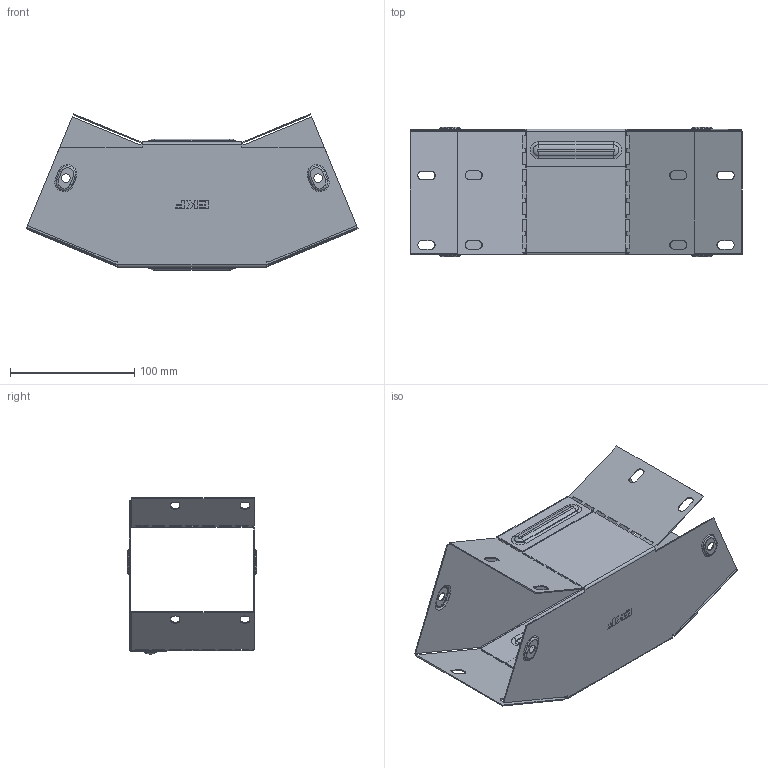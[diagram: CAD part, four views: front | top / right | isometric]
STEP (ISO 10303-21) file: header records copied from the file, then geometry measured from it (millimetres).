
FILE_DESCRIPTION (( 'STEP AP214' ), '1' );
FILE_NAME ('g45100100_捘.STEP', '2019-06-10T08:49:14', ( '砐錪賧瘔蠈錪 Windows' ), ( '' ), 'SwSTEP 2.0', 'SolidWorks 2018', '' );
FILE_SCHEMA (( 'AUTOMOTIVE_DESIGN' ));
Length unit declared in the file: millimetre
Products named in the file (1): g45100100_捘
Bounding box: 266.88 x 103.8 x 125.42 mm (x, y, z)
Volume: 77003.7 mm3; surface area: 195317.7 mm2
Topology: 2 solids, 2 shells, 608 faces, 1708 edges, 1076 vertices
Faces by surface type: plane 346, cylinder 180, torus 64, bspline 18
Entity records: 20480 total; most frequent: CARTESIAN_POINT 4412, ORIENTED_EDGE 3416, DIRECTION 3310, EDGE_CURVE 1708, LINE 1216, VECTOR 1216, VERTEX_POINT 1076, AXIS2_PLACEMENT_3D 1047
